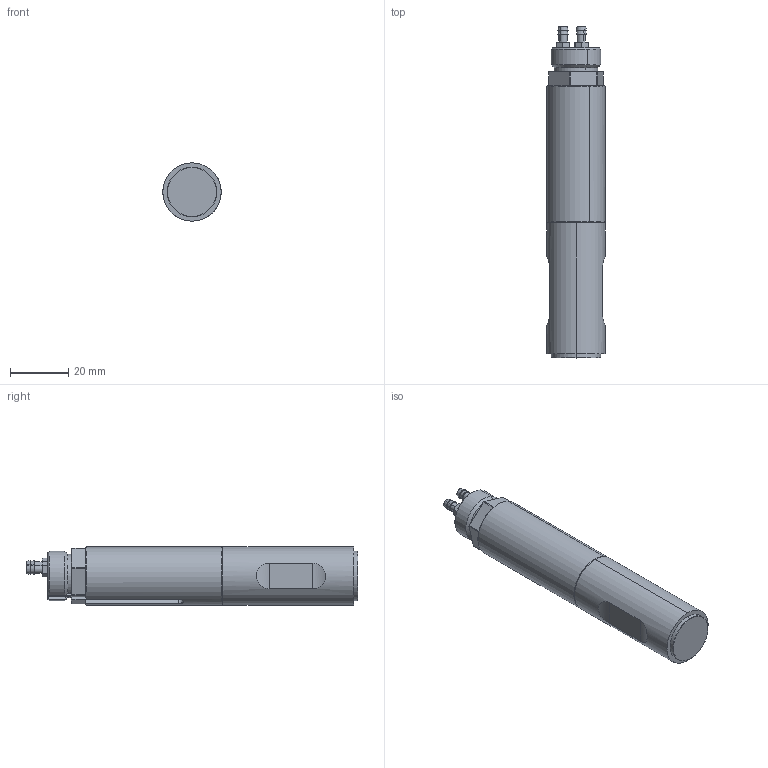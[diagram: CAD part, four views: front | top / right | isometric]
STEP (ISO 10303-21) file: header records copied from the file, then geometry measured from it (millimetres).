
FILE_DESCRIPTION (( 'STEP AP203' ), '1' );
FILE_NAME ('GMAG20.STEP', '2024-08-27T09:25:29', ( '' ), ( '' ), 'SwSTEP 2.0', 'SolidWorks 2022', '' );
FILE_SCHEMA (( 'CONFIG_CONTROL_DESIGN' ));
Length unit declared in the file: millimetre
Products named in the file (1): GMAG20
Bounding box: 20 x 114 x 20 mm (x, y, z)
Volume: 30332.9 mm3; surface area: 8525.4 mm2
Topology: 1 solids, 1 shells, 207 faces, 531 edges, 338 vertices
Faces by surface type: plane 94, cone 62, cylinder 39, bspline 10, sphere 2
Entity records: 6848 total; most frequent: CARTESIAN_POINT 1928, ORIENTED_EDGE 1054, DIRECTION 939, EDGE_CURVE 527, VERTEX_POINT 336, AXIS2_PLACEMENT_3D 335, VECTOR 269, LINE 269
